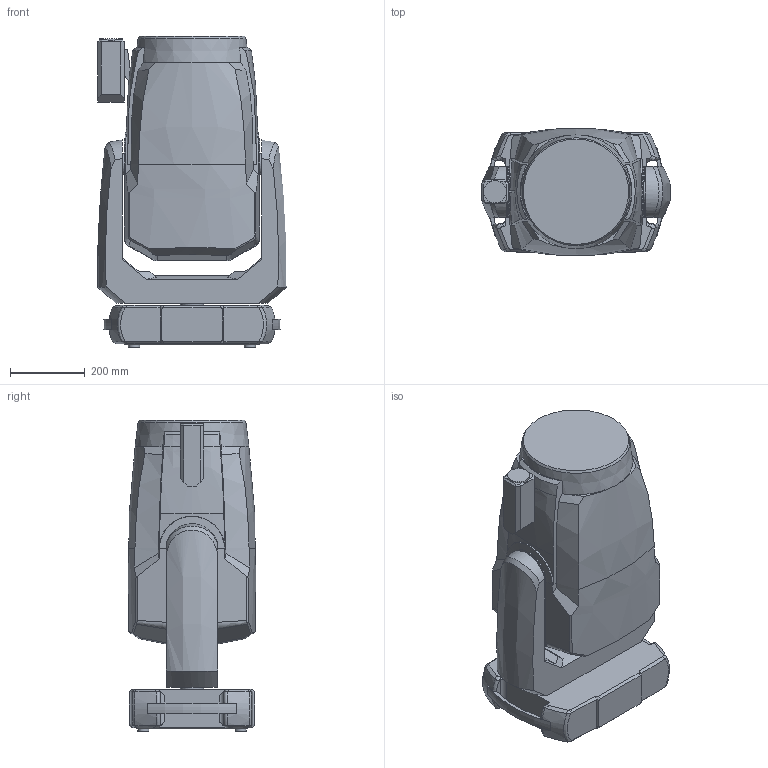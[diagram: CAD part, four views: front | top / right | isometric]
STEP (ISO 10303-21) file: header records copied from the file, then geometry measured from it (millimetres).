
FILE_DESCRIPTION(/* description */ ('Unknown'),/* implementation_level */ '2;1');
FILE_NAME(/* name */ '3D_Robin T3 FoSp',/* time_stamp */ '2025-10-22T14:46:45+02:00',/* author */ ('vaclavek'),/* organization */ ('ROBE lighting s.r.o.'),/* preprocessor_version */ 'ST-DEVELOPER v20',/* originating_system */ 'Solid Edge',/* authorisation */ 'Unknown');
FILE_SCHEMA (('AUTOMOTIVE_DESIGN {1 0 10303 214 3 1 1}'));
Length unit declared in the file: millimetre
Products named in the file (4): 3D_Robin T3 FoSp; Robin T3_base; Robin T3_arm; Robin T3_FoSp_head
Assembly tree (3 placements, depth 2):
  3D_Robin T3 FoSp
    Robin T3_base
    Robin T3_arm
    Robin T3_FoSp_head
Bounding box: 505.42 x 340.81 x 832.1 mm (x, y, z)
Volume: 84197680.5 mm3; surface area: 1791650.9 mm2
Topology: 3 solids, 3 shells, 302 faces, 823 edges, 533 vertices
Faces by surface type: plane 149, bspline 97, cylinder 46, sphere 4, cone 4, torus 2
Full cylindrical faces by diameter (mm): 30 x4, 55 x2, 60 x2, 62 x1
Entity records: 16889 total; most frequent: CARTESIAN_POINT 10135, ORIENTED_EDGE 1620, DIRECTION 1010, EDGE_CURVE 810, VERTEX_POINT 531, B_SPLINE_CURVE_WITH_KNOTS 344, AXIS2_PLACEMENT_3D 343, LINE 324
